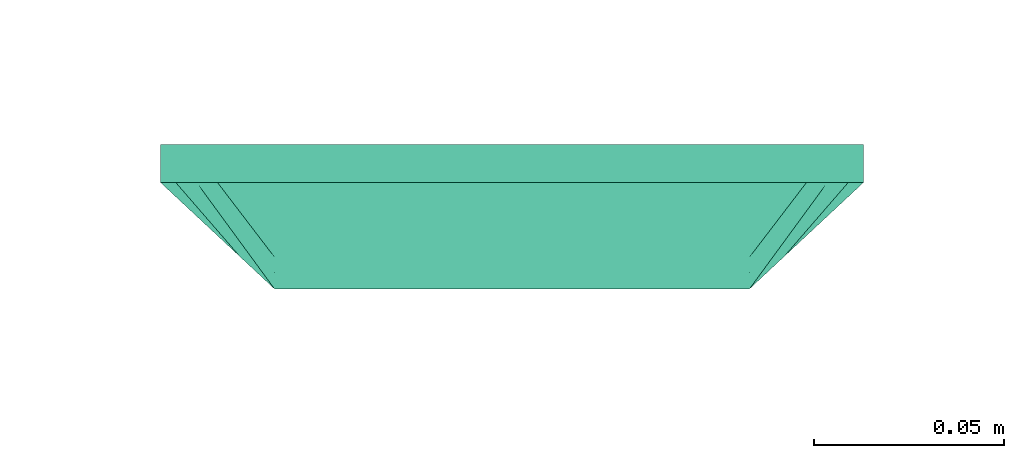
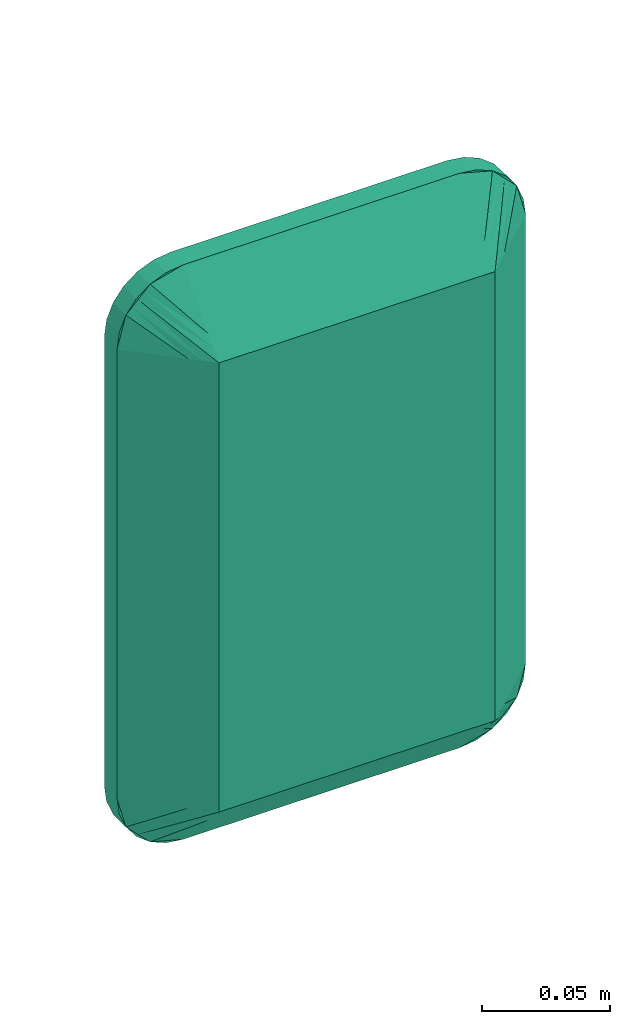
# One storey, part 5 of 146: 1 distribution control element.
"""IFC2X3 building model written with IfcOpenShell, lengths in metres."""

from ifc_helpers import new_model, entity, si_unit, converted_unit, derived_unit, direction, frame, origin, place, context, subcontext, project, spatial, faceted_brep, source, transform, mapped, material, material_list, type_object, type_shapes, element, save


model = new_model("IFC2X3")

# Units and contexts
model_context = context("Model", 3, precision=1e-05, world=origin(), true_north=direction((6.12303176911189e-17, 1.0)))
body_context = subcontext(model_context, "Body", "Model", "MODEL_VIEW")
ifc_project = project(units=[si_unit("LENGTHUNIT", "METRE"), si_unit("AREAUNIT", "SQUARE_METRE"), si_unit("VOLUMEUNIT", "CUBIC_METRE"), converted_unit("PLANEANGLEUNIT", "DEGREE", entity("IfcRatioMeasure", 0.0174532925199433), si_unit("PLANEANGLEUNIT", "RADIAN"), dimensions=[0, 0, 0, 0, 0, 0, 0]), si_unit("MASSUNIT", "GRAM", prefix="KILO"), derived_unit("MASSDENSITYUNIT", [(si_unit("MASSUNIT", "GRAM", prefix="KILO"), 1), (si_unit("LENGTHUNIT", "METRE"), -3)]), si_unit("TIMEUNIT", "SECOND"), si_unit("FREQUENCYUNIT", "HERTZ"), si_unit("THERMODYNAMICTEMPERATUREUNIT", "DEGREE_CELSIUS"), derived_unit("THERMALTRANSMITTANCEUNIT", [(si_unit("MASSUNIT", "GRAM", prefix="KILO"), 1), (si_unit("THERMODYNAMICTEMPERATUREUNIT", "KELVIN"), -1), (si_unit("TIMEUNIT", "SECOND"), -3)]), derived_unit("VOLUMETRICFLOWRATEUNIT", [(si_unit("LENGTHUNIT", "METRE"), 3), (si_unit("TIMEUNIT", "SECOND"), -1)]), si_unit("ELECTRICCURRENTUNIT", "AMPERE"), si_unit("ELECTRICVOLTAGEUNIT", "VOLT"), si_unit("POWERUNIT", "WATT"), si_unit("FORCEUNIT", "NEWTON"), si_unit("ILLUMINANCEUNIT", "LUX"), si_unit("LUMINOUSFLUXUNIT", "LUMEN"), si_unit("LUMINOUSINTENSITYUNIT", "CANDELA"), derived_unit("USERDEFINED", [(si_unit("MASSUNIT", "GRAM", prefix="KILO"), -1), (si_unit("LENGTHUNIT", "METRE"), -2), (si_unit("TIMEUNIT", "SECOND"), 3), (si_unit("LUMINOUSFLUXUNIT", "LUMEN"), 1)]), derived_unit("LINEARVELOCITYUNIT", [(si_unit("LENGTHUNIT", "METRE"), 1), (si_unit("TIMEUNIT", "SECOND"), -1)]), si_unit("PRESSUREUNIT", "PASCAL"), derived_unit("USERDEFINED", [(si_unit("LENGTHUNIT", "METRE"), -2), (si_unit("MASSUNIT", "GRAM", prefix="KILO"), 1), (si_unit("TIMEUNIT", "SECOND"), -2)])], contexts=[model_context])

# Site, building, storey
site_placement = place(None, origin())
site = spatial("IfcSite", under=ifc_project, at=site_placement, Name="Default", CompositionType="ELEMENT")
building_placement = place(site_placement, origin())
building = spatial("IfcBuilding", under=site, at=building_placement, CompositionType="ELEMENT")
storey_placement = place(building_placement, origin())
storey = spatial("IfcBuildingStorey", under=building, at=storey_placement, Name="S01", CompositionType="ELEMENT", Elevation=0.0)

# Distribution control element
ifc_material_1 = material(Name="Default grid")
ifc_material_2 = material(Name="White Plastic")
ifc_material_list_1 = material_list([ifc_material_1, ifc_material_2])
ifc_material_list_2 = material_list([ifc_material_1, ifc_material_2])
alarm_type = type_object("IfcAlarmType", Name="Incendie_Diffuseur sonore", PredefinedType="NOTDEFINED", material=ifc_material_list_2)
shared_shape = source(origin(), body_context, "Body", "Brep", [
    faceted_brep([(0.0625000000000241, 0.107499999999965, 0.0379999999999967), (-0.0624999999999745, 0.107499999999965, 0.0379999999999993), (-0.0624999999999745, -0.107500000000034, 0.0379999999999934), (0.0625000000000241, -0.107500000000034, 0.0379999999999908), (0.0625000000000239, 0.107499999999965, 0.0279999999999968), (0.062500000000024, -0.107500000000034, 0.0279999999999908), (-0.0624999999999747, -0.107500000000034, 0.0279999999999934), (-0.0624999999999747, 0.107499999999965, 0.0279999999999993)], [[[0, 1, 2, 3]], [[4, 5, 6, 7]], [[1, 0, 4, 7]], [[2, 1, 7, 6]], [[3, 2, 6, 5]], [[0, 3, 5, 4]]]),
    faceted_brep([(0.0857355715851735, -0.125245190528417, 0.00999999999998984), (0.0829903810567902, -0.1279903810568, 0.00999999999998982), (0.0802451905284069, -0.130735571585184, 0.0099999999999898), (0.0775000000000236, -0.133480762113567, 0.00999999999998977), (0.0760711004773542, -0.133863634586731, 0.0099999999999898), (0.0746422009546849, -0.134246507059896, 0.00999999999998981), (0.0717844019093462, -0.135012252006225, 0.00999999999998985), (0.0694633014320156, -0.135634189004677, 0.00999999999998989), (0.0671422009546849, -0.136256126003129, 0.00999999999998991), (0.0625000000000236, -0.137500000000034, 0.00999999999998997), (-0.0624999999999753, -0.137500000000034, 0.00999999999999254), (-0.0648211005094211, -0.136878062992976, 0.00999999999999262), (-0.0671422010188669, -0.136256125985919, 0.00999999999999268), (-0.0717844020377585, -0.135012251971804, 0.00999999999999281), (-0.0732133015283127, -0.134629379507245, 0.00999999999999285), (-0.0746422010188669, -0.134246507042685, 0.0099999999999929), (-0.0774999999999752, -0.133480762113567, 0.00999999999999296), (-0.0802451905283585, -0.130735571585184, 0.0099999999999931), (-0.0829903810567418, -0.1279903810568, 0.00999999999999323), (-0.085735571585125, -0.125245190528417, 0.00999999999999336), (-0.0884807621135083, -0.122500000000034, 0.00999999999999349), (-0.0888636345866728, -0.121071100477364, 0.00999999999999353), (-0.0892465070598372, -0.119642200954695, 0.00999999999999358), (-0.0900122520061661, -0.116784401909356, 0.00999999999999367), (-0.0906341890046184, -0.114463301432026, 0.00999999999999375), (-0.0912561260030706, -0.112142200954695, 0.00999999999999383), (-0.0924999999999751, -0.107500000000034, 0.00999999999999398), (-0.0924999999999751, 0.107499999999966, 0.00999999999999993), (-0.0918780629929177, 0.109821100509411, 0.00999999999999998), (-0.0912561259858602, 0.112142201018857, 0.01), (-0.0900122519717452, 0.116784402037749, 0.0100000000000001), (-0.089629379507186, 0.118213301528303, 0.0100000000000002), (-0.0892465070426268, 0.119642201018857, 0.0100000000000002), (-0.0884807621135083, 0.122499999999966, 0.0100000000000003), (-0.085735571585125, 0.125245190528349, 0.0100000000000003), (-0.0829903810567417, 0.127990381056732, 0.0100000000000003), (-0.0802451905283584, 0.130735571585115, 0.0100000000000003), (-0.0774999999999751, 0.133480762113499, 0.0100000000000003), (-0.0760711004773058, 0.133863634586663, 0.0100000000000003), (-0.0746422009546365, 0.134246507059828, 0.0100000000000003), (-0.0717844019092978, 0.135012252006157, 0.0100000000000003), (-0.0694633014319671, 0.135634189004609, 0.0100000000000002), (-0.0671422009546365, 0.136256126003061, 0.0100000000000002), (-0.0624999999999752, 0.137499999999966, 0.0100000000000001), (0.0625000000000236, 0.137499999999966, 0.00999999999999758), (0.0648211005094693, 0.136878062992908, 0.00999999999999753), (0.0671422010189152, 0.136256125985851, 0.00999999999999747), (0.0717844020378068, 0.135012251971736, 0.00999999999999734), (0.073213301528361, 0.134629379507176, 0.0099999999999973), (0.0746422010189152, 0.134246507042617, 0.00999999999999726), (0.0775000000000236, 0.133480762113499, 0.00999999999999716), (0.0802451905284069, 0.130735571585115, 0.00999999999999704), (0.0829903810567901, 0.127990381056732, 0.00999999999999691), (0.0857355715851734, 0.125245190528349, 0.00999999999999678), (0.0884807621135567, 0.122499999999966, 0.00999999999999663), (0.0888636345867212, 0.121071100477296, 0.00999999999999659), (0.0892465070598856, 0.119642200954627, 0.00999999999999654), (0.0900122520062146, 0.116784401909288, 0.00999999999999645), (0.0906341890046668, 0.114463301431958, 0.00999999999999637), (0.0912561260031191, 0.112142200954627, 0.00999999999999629), (0.0925000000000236, 0.107499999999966, 0.00999999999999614), (0.0925000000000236, -0.107500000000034, 0.00999999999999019), (0.0918780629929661, -0.109821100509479, 0.00999999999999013), (0.0912561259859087, -0.112142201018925, 0.00999999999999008), (0.0900122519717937, -0.116784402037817, 0.00999999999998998), (0.0896293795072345, -0.118213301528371, 0.00999999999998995), (0.0892465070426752, -0.119642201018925, 0.00999999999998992), (0.0884807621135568, -0.122500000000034, 0.00999999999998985), (-0.0624999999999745, -0.107500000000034, 0.0379999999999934), (-0.0624999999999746, 0.107499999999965, 0.0379999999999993), (-0.066978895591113, 0.107499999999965, 0.0338196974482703), (-0.0714577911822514, 0.107499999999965, 0.0296393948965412), (-0.0759366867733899, 0.107499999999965, 0.0254590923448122), (-0.0804155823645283, 0.107499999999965, 0.0212787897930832), (-0.0864577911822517, 0.107499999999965, 0.0156393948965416), (-0.0894788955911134, 0.107499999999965, 0.0128196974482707), (-0.0864577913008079, -0.107500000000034, 0.0156393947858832), (-0.0834366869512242, -0.107500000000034, 0.0184590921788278), (-0.0804155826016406, -0.107500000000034, 0.0212787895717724), (-0.0759366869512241, -0.107500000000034, 0.0254590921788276), (-0.0714577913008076, -0.107500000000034, 0.0296393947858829), (-0.066978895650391, -0.107500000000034, 0.0338196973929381), (-0.0624999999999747, -0.116457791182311, 0.0296393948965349), (-0.0624999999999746, -0.111978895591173, 0.0338196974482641), (-0.0624999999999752, -0.134478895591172, 0.0128196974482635), (-0.0624999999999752, -0.131457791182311, 0.0156393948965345), (-0.062499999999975, -0.125415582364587, 0.0212787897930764), (-0.0624999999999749, -0.120936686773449, 0.0254590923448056), (0.0625000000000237, -0.131457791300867, 0.0156393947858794), (0.0625000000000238, -0.128436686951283, 0.0184590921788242), (0.0625000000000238, -0.1254155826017, 0.0212787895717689), (0.0625000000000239, -0.120936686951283, 0.0254590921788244), (0.062500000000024, -0.116457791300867, 0.0296393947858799), (0.0625000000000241, -0.111978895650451, 0.0338196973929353), (0.0625000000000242, -0.107500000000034, 0.0379999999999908), (0.0714577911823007, -0.107500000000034, 0.0296393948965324), (0.0669788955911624, -0.107500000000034, 0.0338196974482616), (0.089478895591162, -0.107500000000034, 0.0128196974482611), (0.0864577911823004, -0.107500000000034, 0.0156393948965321), (0.0804155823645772, -0.107500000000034, 0.0212787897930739), (0.075936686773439, -0.107500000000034, 0.0254590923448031), (0.0864577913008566, 0.107499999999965, 0.0156393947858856), (0.0834366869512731, 0.107499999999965, 0.0184590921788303), (0.0804155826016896, 0.107499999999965, 0.021278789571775), (0.0759366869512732, 0.107499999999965, 0.0254590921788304), (0.0714577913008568, 0.107499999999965, 0.0296393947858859), (0.0669788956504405, 0.107499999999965, 0.0338196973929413), (0.0625000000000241, 0.107499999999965, 0.0379999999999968), (0.062500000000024, 0.116457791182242, 0.0296393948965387), (0.062500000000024, 0.111978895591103, 0.0338196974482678), (0.0625000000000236, 0.134478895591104, 0.0128196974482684), (0.0625000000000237, 0.131457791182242, 0.0156393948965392), (0.0625000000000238, 0.125415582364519, 0.0212787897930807), (0.0625000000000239, 0.12093668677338, 0.0254590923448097), (-0.062499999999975, 0.131457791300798, 0.0156393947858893), (-0.062499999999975, 0.128436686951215, 0.0184590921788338), (-0.0624999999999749, 0.125415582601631, 0.0212787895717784), (-0.0624999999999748, 0.120936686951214, 0.0254590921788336), (-0.0624999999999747, 0.116457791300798, 0.0296393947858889), (-0.0624999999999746, 0.111978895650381, 0.0338196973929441), (0.0625000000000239, 0.107499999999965, 0.0279999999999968), (-0.0624999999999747, 0.107499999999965, 0.0279999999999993), (-0.0624999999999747, -0.107500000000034, 0.0279999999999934), (0.062500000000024, -0.107500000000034, 0.0279999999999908)], [[[0, 1, 2, 3, 4, 5, 6, 7, 8, 9, 10, 11, 12, 13, 14, 15, 16, 17, 18, 19, 20, 21, 22, 23, 24, 25, 26, 27, 28, 29, 30, 31, 32, 33, 34, 35, 36, 37, 38, 39, 40, 41, 42, 43, 44, 45, 46, 47, 48, 49, 50, 51, 52, 53, 54, 55, 56, 57, 58, 59, 60, 61, 62, 63, 64, 65, 66, 67]], [[68, 69, 70, 71, 72, 73, 74, 75, 27, 26, 76, 77, 78, 79, 80, 81]], [[80, 20, 19]], [[82, 17, 16]], [[83, 18, 17]], [[19, 18, 81]], [[20, 80, 79, 78, 77, 76, 26, 25, 24, 23, 22, 21]], [[14, 13, 12, 11, 10, 84, 85, 86, 87, 82, 16, 15]], [[18, 83, 68]], [[82, 83, 17]], [[18, 68, 81]], [[80, 19, 81]], [[9, 88, 89, 90, 91, 92, 93, 94, 68, 83, 82, 87, 86, 85, 84, 10]], [[92, 3, 2]], [[95, 0, 67]], [[96, 1, 0]], [[2, 1, 93]], [[3, 92, 91, 90, 89, 88, 9, 8, 7, 6, 5, 4]], [[65, 64, 63, 62, 61, 97, 98, 99, 100, 95, 67, 66]], [[1, 96, 94]], [[95, 96, 0]], [[1, 94, 93]], [[92, 2, 93]], [[60, 101, 102, 103, 104, 105, 106, 107, 94, 96, 95, 100, 99, 98, 97, 61]], [[105, 54, 53]], [[108, 51, 50]], [[109, 52, 51]], [[53, 52, 106]], [[54, 105, 104, 103, 102, 101, 60, 59, 58, 57, 56, 55]], [[48, 47, 46, 45, 44, 110, 111, 112, 113, 108, 50, 49]], [[52, 109, 107]], [[108, 109, 51]], [[52, 107, 106]], [[105, 53, 106]], [[69, 107, 109, 108, 113, 112, 111, 110, 44, 43, 114, 115, 116, 117, 118, 119]], [[118, 37, 36]], [[71, 34, 33]], [[70, 35, 34]], [[36, 35, 119]], [[37, 118, 117, 116, 115, 114, 43, 42, 41, 40, 39, 38]], [[31, 30, 29, 28, 27, 75, 74, 73, 72, 71, 33, 32]], [[35, 70, 69]], [[71, 70, 34]], [[35, 69, 119]], [[118, 36, 119]], [[120, 121, 122, 123]], [[120, 107, 69, 121]], [[121, 69, 68, 122]], [[122, 68, 94, 123]], [[123, 94, 107, 120]]]),
    faceted_brep([(0.0625000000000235, 0.137499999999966, 0.00999999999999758), (-0.0624999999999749, 0.137499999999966, 0.0100000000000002), (-0.0702645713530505, 0.136477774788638, 0.0100000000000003), (-0.0774999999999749, 0.133480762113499, 0.0100000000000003), (-0.0837132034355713, 0.128713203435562, 0.0100000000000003), (-0.0884807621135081, 0.122499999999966, 0.0100000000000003), (-0.0914777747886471, 0.115264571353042, 0.0100000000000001), (-0.0924999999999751, 0.107499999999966, 0.00999999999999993), (-0.0924999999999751, -0.107500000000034, 0.00999999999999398), (-0.0914777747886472, -0.115264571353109, 0.00999999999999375), (-0.0884807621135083, -0.122500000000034, 0.00999999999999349), (-0.0837132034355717, -0.12871320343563, 0.00999999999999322), (-0.0774999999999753, -0.133480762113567, 0.00999999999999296), (-0.0702645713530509, -0.136477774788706, 0.00999999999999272), (-0.0624999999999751, -0.137500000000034, 0.00999999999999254), (0.0625000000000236, -0.137500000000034, 0.00999999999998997), (0.0702645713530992, -0.136477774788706, 0.00999999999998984), (0.0775000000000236, -0.133480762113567, 0.00999999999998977), (0.08371320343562, -0.12871320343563, 0.00999999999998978), (0.0884807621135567, -0.122500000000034, 0.00999999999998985), (0.0914777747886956, -0.115264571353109, 0.00999999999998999), (0.0925000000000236, -0.107500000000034, 0.00999999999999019), (0.0925000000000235, 0.107499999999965, 0.00999999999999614), (0.0914777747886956, 0.115264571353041, 0.00999999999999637), (0.0884807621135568, 0.122499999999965, 0.00999999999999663), (0.0837132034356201, 0.128713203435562, 0.0099999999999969), (0.0775000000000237, 0.133480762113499, 0.00999999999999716), (0.0702645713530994, 0.136477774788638, 0.00999999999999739), (-0.0624999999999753, 0.137499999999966, 0.0), (0.0625000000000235, 0.137499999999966, 0.0), (0.0702645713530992, 0.136477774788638, 0.0), (0.0775000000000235, 0.133480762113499, 0.0), (0.0837132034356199, 0.128713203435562, 0.0), (0.0884807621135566, 0.122499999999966, 0.0), (0.0914777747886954, 0.115264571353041, 0.0), (0.0925000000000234, 0.107499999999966, 0.0), (0.0925000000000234, -0.107500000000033, 0.0), (0.0914777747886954, -0.115264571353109, 0.0), (0.0884807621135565, -0.122500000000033, 0.0), (0.0837132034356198, -0.12871320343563, 0.0), (0.0775000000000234, -0.133480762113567, 0.0), (0.070264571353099, -0.136477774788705, 0.0), (0.0625000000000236, -0.137500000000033, 0.0), (-0.0624999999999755, -0.137500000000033, 0.0), (-0.0702645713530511, -0.136477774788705, 0.0), (-0.0774999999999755, -0.133480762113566, 0.0), (-0.0837132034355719, -0.12871320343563, 0.0), (-0.0884807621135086, -0.122500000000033, 0.0), (-0.0914777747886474, -0.115264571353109, 0.0), (-0.0924999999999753, -0.107500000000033, 0.0), (-0.0924999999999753, 0.107499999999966, 0.0), (-0.0914777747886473, 0.115264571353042, 0.0), (-0.0884807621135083, 0.122499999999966, 0.0), (-0.0837132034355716, 0.128713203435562, 0.0), (-0.0774999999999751, 0.133480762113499, 0.0), (-0.0702645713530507, 0.136477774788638, 0.0)], [[[0, 1, 2, 3, 4, 5, 6, 7, 8, 9, 10, 11, 12, 13, 14, 15, 16, 17, 18, 19, 20, 21, 22, 23, 24, 25, 26, 27]], [[28, 29, 30, 31, 32, 33, 34, 35, 36, 37, 38, 39, 40, 41, 42, 43, 44, 45, 46, 47, 48, 49, 50, 51, 52, 53, 54, 55]], [[1, 0, 29, 28]], [[2, 1, 28, 55]], [[3, 2, 55, 54]], [[4, 3, 54, 53]], [[5, 4, 53, 52]], [[6, 5, 52, 51]], [[7, 6, 51, 50]], [[8, 7, 50, 49]], [[9, 8, 49, 48]], [[10, 9, 48, 47]], [[11, 10, 47, 46]], [[12, 11, 46, 45]], [[13, 12, 45, 44]], [[14, 13, 44, 43]], [[15, 14, 43, 42]], [[16, 15, 42, 41]], [[17, 16, 41, 40]], [[18, 17, 40, 39]], [[19, 18, 39, 38]], [[20, 19, 38, 37]], [[21, 20, 37, 36]], [[22, 21, 36, 35]], [[23, 22, 35, 34]], [[24, 23, 34, 33]], [[25, 24, 33, 32]], [[26, 25, 32, 31]], [[27, 26, 31, 30]], [[0, 27, 30, 29]]]),
])
type_shapes(alarm_type, [shared_shape])
distribution_control_element_placement = place(building_placement, frame((26.1333105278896, -193.469651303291, 2.40000000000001), z_axis=(0.0, -1.0, 0.0), x_axis=(1.0, 0.0, 0.0)))
element("IfcDistributionControlElement", 1, at=distribution_control_element_placement, inside=storey, type_object=alarm_type, material=ifc_material_list_1, Name="INT_DIffuseur sonore:Incendie_Diffuseur sonore", ObjectType="INT_DIffuseur sonore:Incendie_Diffuseur sonore", context=body_context, shape_type="MappedRepresentation", body=[
    mapped(shared_shape, transform((0.0, 0.0, 0.0), scale=1.0)),
])

save(model, "model.ifc")
